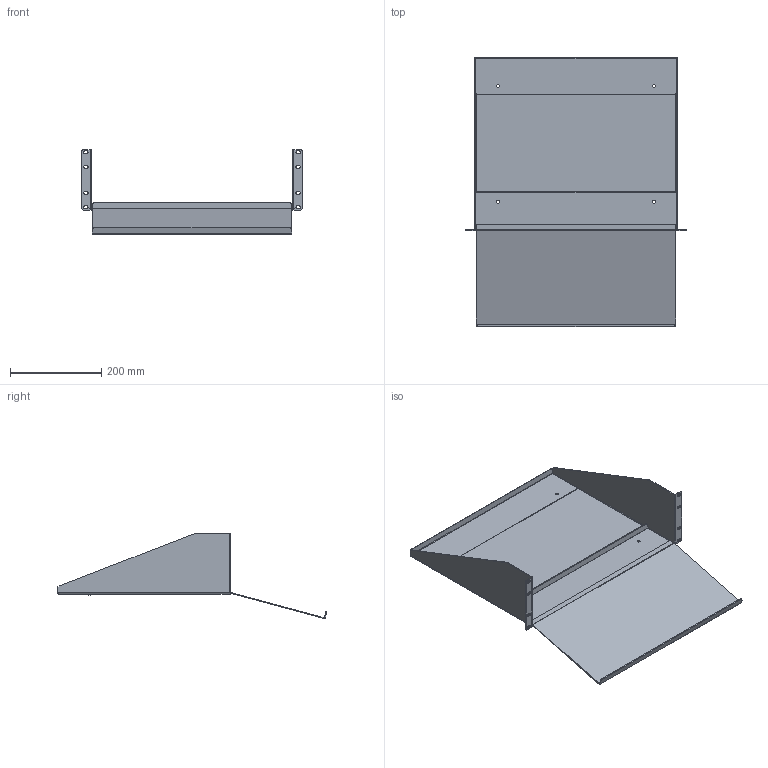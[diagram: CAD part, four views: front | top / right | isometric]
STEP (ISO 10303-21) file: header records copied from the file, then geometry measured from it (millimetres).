
FILE_DESCRIPTION( ( 'Unknown' ), '1' );
FILE_NAME( 'Q:/ACCESSORIES/SHELVES/RK _ RMA/WEB DRAWINGS/STEP/RKBM19.stp', 'Unknown', ( 'Unknown' ), ( 'Unknown' ), 'PSStep 10.1', 'Unknown', ' ' );
FILE_SCHEMA( ( 'AUTOMOTIVE_DESIGN { 1 0 10303 214 1 1 1 1 }' ) );
Length unit declared in the file: millimetre
Products named in the file (3): Assem1; COM49069; COM54148-1
Bounding box: 482.75 x 591.54 x 185.9 mm (x, y, z)
Volume: 1274061.3 mm3; surface area: 1407004.4 mm2
Topology: 4 solids, 4 shells, 232 faces, 640 edges, 416 vertices
Faces by surface type: plane 132, cylinder 92, bspline 8
Full cylindrical faces by diameter (mm): 6.35 x8
Entity records: 3975 total; most frequent: CARTESIAN_POINT 931, ORIENTED_EDGE 624, DIRECTION 614, EDGE_CURVE 312, AXIS2_PLACEMENT_3D 207, VERTEX_POINT 204, LINE 200, VECTOR 200
